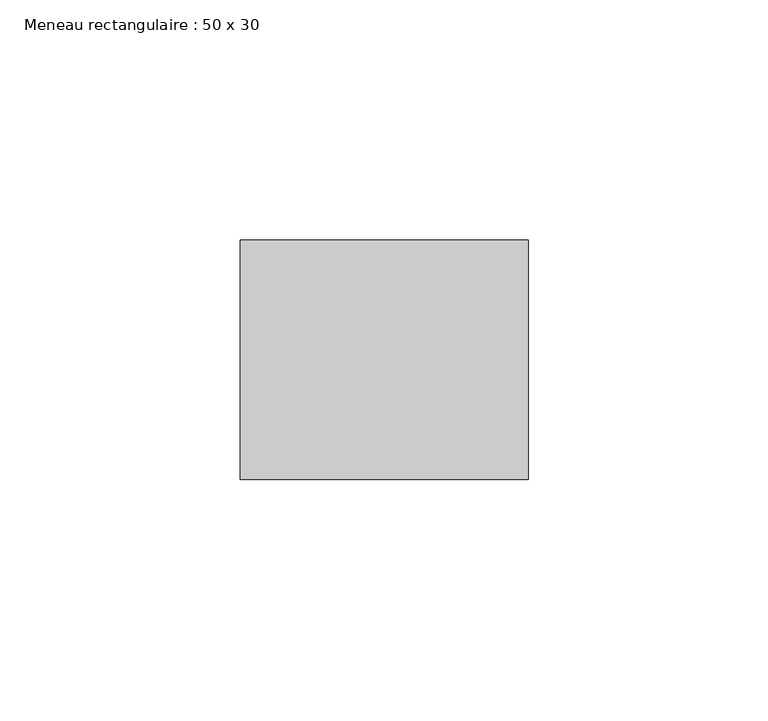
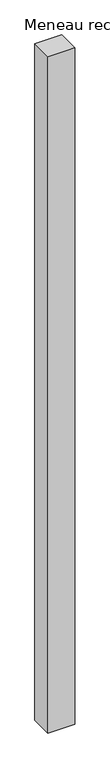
"""IFC4 building model written with IfcOpenShell, lengths in millimetres: member geometry, Meneau rectangulaire : 50 x 30."""

from ifc_helpers import new_model, si_unit, frame, origin, place, context, project, spatial, polyline, outline, extrude, source, transform, mapped, element, save


def meneau_rectangulaire_50_x_30_376fc09a(model_context):
    return source(origin(), model_context, "Body", "SweptSolid", [
        extrude(outline(polyline([(0.0, 0.0), (0.0, -50.0), (-60.0, -50.0), (-60.0, 0.0), (0.0, 0.0)])), frame((0.0, 0.0, -1588.0), z_axis=(0.0, 0.0, 1.0), x_axis=(1.0, 0.0, 0.0)), (0.0, 0.0, 1.0), 1588.0),
    ])


if __name__ == "__main__":
    model = new_model("IFC4")
    model_context = context("Model", 3, world=origin())
    ifc_project = project(units=[si_unit("LENGTHUNIT", "METRE", prefix="MILLI")], contexts=[model_context])
    site = spatial("IfcSite", under=ifc_project)
    building = spatial("IfcBuilding", under=site)
    placement = place(None, origin())
    meneau_rectangulaire_50_x_30_shape = meneau_rectangulaire_50_x_30_376fc09a(model_context)
    element("IfcMember", 1, ObjectType="Meneau rectangulaire : 50 x 30", at=placement, inside=building, context=model_context, shape_type="MappedRepresentation", body=[
        mapped(meneau_rectangulaire_50_x_30_shape, transform((0.0, 0.0, 0.0), x_axis=(1.0, 0.0, 0.0), y_axis=(0.0, 1.0, 0.0), z_axis=(0.0, 0.0, 1.0))),
    ])
    save(model, "model.ifc")
